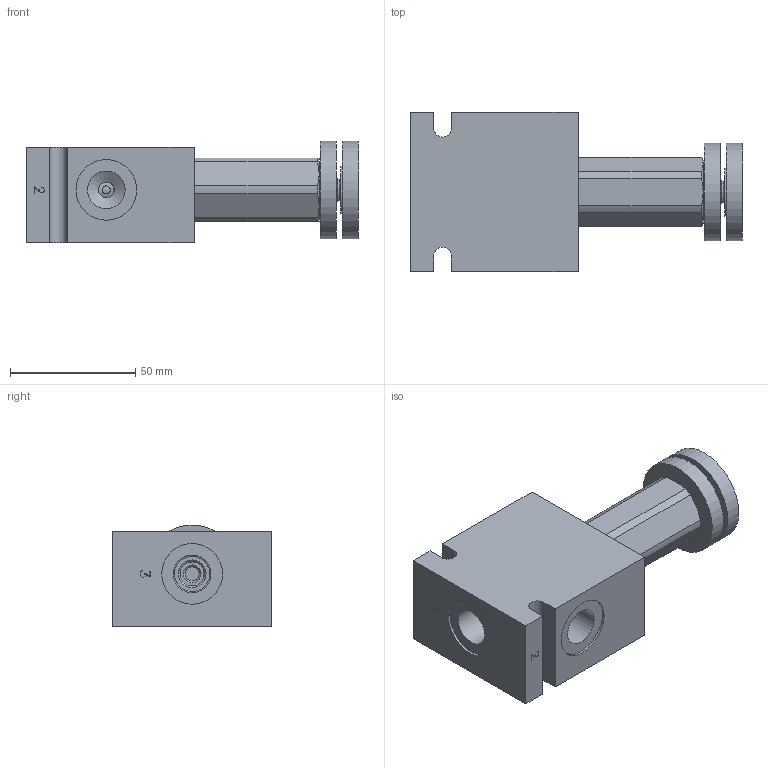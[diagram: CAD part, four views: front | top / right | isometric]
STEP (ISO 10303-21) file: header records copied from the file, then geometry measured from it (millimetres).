
FILE_DESCRIPTION( ( 'Unknown' ), '1' );
FILE_NAME( 'G:/Graphic Design/Graphic Design 2/Data Sheets/PRESSURE CONTROLS/2_STEP/Pressure Reducing_Relieving Valves/D-DFPWP0K-B3.stp', 'Unknown', ( 'Unknown' ), ( 'Unknown' ), 'PSStep 16.0.42', 'Unknown', ' ' );
FILE_SCHEMA( ( 'AUTOMOTIVE_DESIGN { 1 0 10303 214 1 1 1 1 }' ) );
Length unit declared in the file: millimetre
Products named in the file (11): DFPWP0K; DFPWP0K-3D Full1; DFPWP0K-3D Full2; DFPWP0K-3D Full3; DFPWP0K-3D Full4; DFPWP0K-3D Full5; DFPWP0K-3D Full6; DFPWP0K-3D Full7; DFPWP0K-3D Full8; Assem1; B-DDFB3
Assembly tree (10 placements, depth 3):
  Assem1
    B-DDFB3
    DFPWP0K
      DFPWP0K-3D Full1
      DFPWP0K-3D Full2
      DFPWP0K-3D Full3
      DFPWP0K-3D Full4
      DFPWP0K-3D Full5
      DFPWP0K-3D Full6
      DFPWP0K-3D Full7
      DFPWP0K-3D Full8
Bounding box: 132.29 x 63.5 x 40.53 mm (x, y, z)
Surface area: 41933.3 mm2 (no closed solid volume)
Topology: 0 solids, 280 shells, 280 faces, 1149 edges, 1039 vertices
Faces by surface type: plane 134, cone 72, cylinder 69, torus 5
Full cylindrical faces by diameter (mm): 0.2 x3, 3.175 x8, 3.962 x1, 5.563 x1, 6.3 x1, 8.128 x1, 9.525 x2, 13.005 x1, 13.043 x1, 14 x2, 14.275 x2, 14.58 x1, 14.643 x1, 15 x6, 15.735 x1, 15.748 x2, 15.875 x1, 15.926 x1, 17.323 x3, 17.335 x1, 17.526 x1, 17.527 x1, 19.05 x2, 19.622 x1, 20.262 x2, 24.2 x3, 30.175 x1, 38.862 x2
Entity records: 14916 total; most frequent: CARTESIAN_POINT 4665, DIRECTION 1544, VERTEX_POINT 1013, ORIENTED_EDGE 1010, EDGE_CURVE 1010, AXIS2_PLACEMENT_3D 636, FACE_BOUND 431, EDGE_LOOP 428
